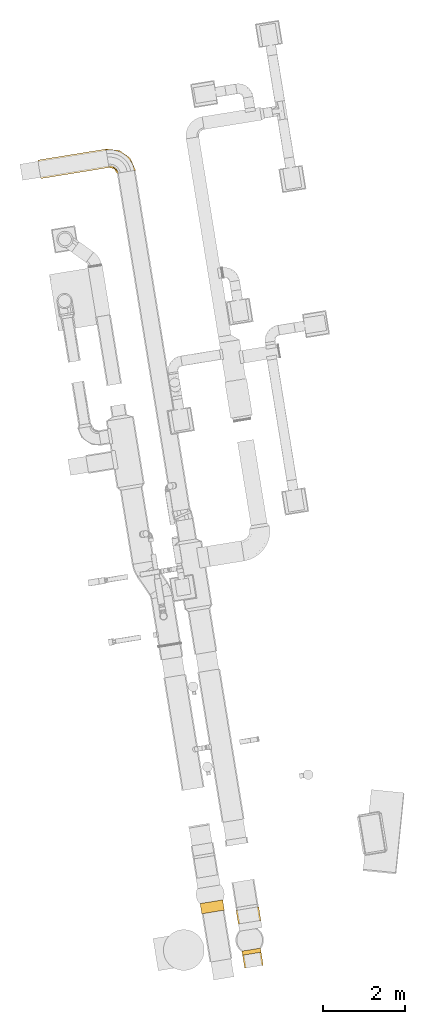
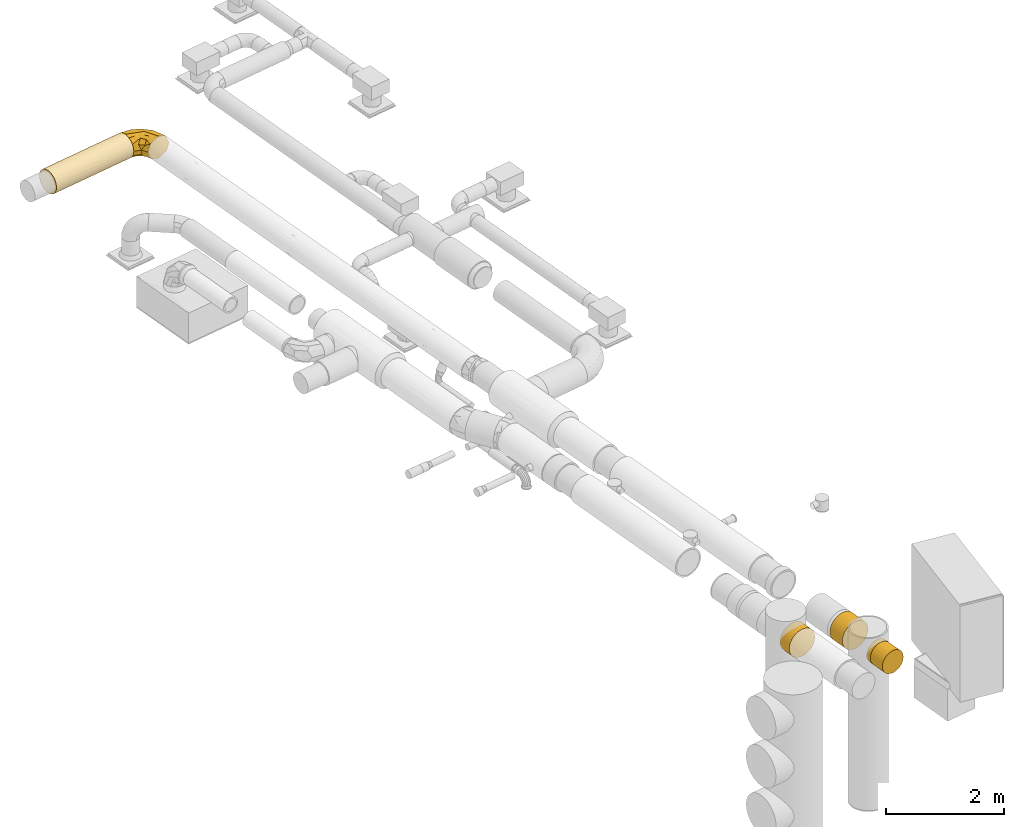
# One storey, part 7 of 39: 6 coverings.
"""IFC2X3 building model written with IfcOpenShell, lengths in millimetres."""

from ifc_helpers import new_model, entity, si_unit, converted_unit, derived_unit, direction, frame, origin, origin_with_axes, place, context, subcontext, project, spatial, faceted_brep, type_object, element, save


model = new_model("IFC2X3")

# Units and contexts
plan_context = context("Plan", 3, precision=1e-05, world=origin_with_axes())
model_context = context("Model", 3, precision=0.01, world=origin(), true_north=direction((6.12323399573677e-17, 1.0)))
body_context = subcontext(model_context, "Body", "Model", "MODEL_VIEW")
ifc_project = project(units=[converted_unit("PLANEANGLEUNIT", "DEGREE", entity("IfcPositiveLengthMeasure", 0.0174532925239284), si_unit("PLANEANGLEUNIT", "RADIAN"), dimensions=[0, 0, 0, 0, 0, 0, 0]), si_unit("AREAUNIT", "SQUARE_METRE"), si_unit("LENGTHUNIT", "METRE", prefix="MILLI"), si_unit("MASSUNIT", "GRAM", prefix="KILO"), si_unit("POWERUNIT", "WATT"), si_unit("PRESSUREUNIT", "PASCAL", prefix="KILO"), si_unit("FORCEUNIT", "NEWTON", prefix="KILO"), si_unit("ELECTRICVOLTAGEUNIT", "VOLT"), si_unit("ELECTRICCURRENTUNIT", "AMPERE"), si_unit("THERMODYNAMICTEMPERATUREUNIT", "DEGREE_CELSIUS"), si_unit("TIMEUNIT", "SECOND"), si_unit("VOLUMEUNIT", "CUBIC_METRE"), derived_unit("LINEARVELOCITYUNIT", [(si_unit("LENGTHUNIT", "METRE"), 1), (si_unit("TIMEUNIT", "SECOND"), -1)]), derived_unit("VOLUMETRICFLOWRATEUNIT", [(si_unit("VOLUMEUNIT", "CUBIC_METRE"), 1), (si_unit("TIMEUNIT", "SECOND"), -1)]), derived_unit("THERMALTRANSMITTANCEUNIT", [(si_unit("POWERUNIT", "WATT"), 1), (si_unit("THERMODYNAMICTEMPERATUREUNIT", "KELVIN"), -1), (si_unit("AREAUNIT", "SQUARE_METRE"), -1)]), derived_unit("SOUNDPRESSUREUNIT", [(si_unit("PRESSUREUNIT", "PASCAL"), 1)])], contexts=[model_context, plan_context])

# Site, building, storey
site_placement = place(None, frame((-0.00071070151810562, 0.00438415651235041, 0.0), z_axis=(0.0, 0.0, 1.0), x_axis=(-0.160236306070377, 0.987078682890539, 0.0)))
site = spatial("IfcSite", under=ifc_project, at=site_placement, Name="Default", CompositionType="ELEMENT")
building_placement = place(site_placement, origin_with_axes())
building = spatial("IfcBuilding", under=site, at=building_placement, CompositionType="ELEMENT")
storey_placement = place(building_placement, frame((0.0, 0.0, 58999.9999999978), z_axis=(0.0, 0.0, 1.0), x_axis=(1.0, 0.0, 0.0)))
storey = spatial("IfcBuildingStorey", under=building, at=storey_placement, Name="Nivå F", CompositionType="ELEMENT", Elevation=58999.9999999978)

# Coverings
covering_type_1 = type_object("IfcCoveringType", Name="Duct Insulation:MuT030", PredefinedType="INSULATION")
covering_1_placement = place(storey_placement, frame((782925.626843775, -503533.958173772, 2898.40472776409), z_axis=(0.0, 0.0, 1.0), x_axis=(1.0, 0.0, 0.0)))
element("IfcCovering", 1, at=covering_1_placement, inside=storey, type_object=covering_type_1, Name="Duct Insulation:MuT030", ObjectType="Duct Insulation:MuT030", PredefinedType="INSULATION", context=body_context, shape_type="Brep", body=[
    faceted_brep([(401.595272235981, 631.595272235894, 461.595272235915), (523.966668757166, 631.595272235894, 426.339312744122), (608.819968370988, 631.595272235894, 331.384677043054), (631.595272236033, 631.595272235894, 231.595272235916), (596.33931274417, 631.595272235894, 109.223875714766), (501.384677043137, 631.595272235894, 24.3705761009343), (401.595272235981, 631.595272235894, 1.5952722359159), (316.748709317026, 631.595272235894, 26.0400940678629), (279.223875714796, 631.595272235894, 36.8512317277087), (236.797225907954, 631.595272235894, 84.3285495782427), (194.370576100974, 631.595272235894, 131.805867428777), (171.595272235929, 631.595272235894, 231.595272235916), (206.851231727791, 631.595272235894, 353.966668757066), (301.805867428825, 631.595272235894, 438.819968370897), (1.59527223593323, 231.595272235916, 461.595272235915), (1.59527223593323, 272.164015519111, 442.058395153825), (1.59527223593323, 312.732758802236, 422.521518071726), (1.59527223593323, 362.074636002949, 398.759722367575), (1.59527223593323, 411.416513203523, 374.997926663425), (1.59527223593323, 461.595272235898, 231.595272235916), (1.59527223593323, 418.296599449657, 141.684651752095), (1.59527223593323, 374.997926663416, 51.774031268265), (1.59527223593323, 315.593367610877, 30.9874770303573), (1.59527223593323, 231.595272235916, 1.5952722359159), (1.59527223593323, 141.684651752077, 44.8939450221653), (1.59527223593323, 51.774031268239, 88.1926178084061), (1.59527223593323, 1.59527223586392, 231.595272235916), (1.59527223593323, 40.6958301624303, 312.788417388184), (1.59527223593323, 88.1926178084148, 411.416513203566), (316.595272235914, 85.9992678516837, 231.595272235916), (383.306690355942, 148.432506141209, 311.290352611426), (217.493303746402, 83.155639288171, 362.078338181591), (216.733217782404, 165.647230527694, 431.799821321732), (391.018554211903, 330.362904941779, 442.248264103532), (406.318936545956, 226.871582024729, 383.878103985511), (547.191276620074, 316.595272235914, 231.595272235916), (531.330544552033, 328.846791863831, 325.079823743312), (258.710316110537, 325.177494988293, 461.595272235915), (518.68615377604, 417.804926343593, 397.262915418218), (130.152794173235, 278.386383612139, 461.595272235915), (54.536985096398, 250.864479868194, 461.595272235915), (354.521714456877, 530.645701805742, 461.595272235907), (307.448156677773, 429.696131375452, 461.595272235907), (114.815478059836, 406.653497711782, 407.507808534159), (203.545062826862, 464.728216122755, 415.572842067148), (83.4917692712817, 459.084378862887, 327.531326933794), (283.867814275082, 520.319757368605, 440.332274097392), (197.188976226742, 383.340831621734, 445.726729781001), (167.546976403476, 534.249460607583, 330.592898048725), (121.803425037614, 511.387119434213, 231.595272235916), (114.461323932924, 333.844023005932, 446.64302895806), (131.107641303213, 486.81292175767, 128.787709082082), (200.557400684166, 467.669603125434, 50.8265051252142), (99.2509756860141, 412.731412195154, 66.6958269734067), (183.094507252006, 297.65559132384, 1.59527223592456), (107.478698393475, 270.133687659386, 1.5952722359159), (88.3633765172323, 321.954761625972, 15.381456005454), (165.239041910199, 359.757846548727, 16.9803665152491), (354.521714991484, 530.645702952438, 1.5952722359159), (330.984936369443, 480.170918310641, 1.59527223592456), (307.448157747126, 429.696133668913, 1.5952722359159), (258.710316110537, 325.177494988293, 1.5952722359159), (264.620947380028, 532.327629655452, 34.6917996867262), (269.694657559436, 215.593604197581, 22.0903088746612), (206.12729296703, 109.232777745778, 67.3205134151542), (404.119593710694, 229.07092488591, 75.8627491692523), (511.348934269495, 419.296076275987, 59.152341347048), (545.309735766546, 361.801204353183, 131.281526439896), (197.913181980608, 49.9055712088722, 147.119296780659), (397.192570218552, 159.52334705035, 152.339541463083), (422.363282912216, 403.397677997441, 15.4659808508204)], [[[0, 1, 2, 3, 4, 5, 6, 7, 8, 9, 10, 11, 12, 13]], [[14, 15, 16, 17, 18, 19, 20, 21, 22, 23, 24, 25, 26, 27, 28]], [[29, 30, 31]], [[27, 31, 28]], [[32, 14, 28]], [[28, 31, 32]], [[1, 0, 33]], [[32, 31, 34]], [[30, 34, 31]], [[27, 26, 29]], [[35, 3, 2]], [[34, 30, 36]], [[37, 32, 33]], [[36, 38, 34]], [[33, 34, 38]], [[32, 37, 39, 40, 14]], [[33, 0, 41, 42, 37]], [[29, 31, 27]], [[29, 35, 30]], [[33, 32, 34]], [[36, 30, 35]], [[35, 2, 36]], [[38, 2, 1]], [[2, 38, 36]], [[33, 38, 1]], [[39, 16, 15, 14, 40]], [[43, 44, 45]], [[46, 41, 13]], [[19, 18, 45]], [[42, 44, 47]], [[43, 45, 18]], [[45, 48, 49]], [[46, 44, 42]], [[48, 11, 49]], [[45, 49, 19]], [[46, 12, 44]], [[44, 48, 45]], [[11, 48, 12]], [[13, 41, 0]], [[50, 39, 37]], [[48, 44, 12]], [[47, 44, 43]], [[50, 16, 39]], [[37, 47, 50]], [[43, 18, 17]], [[47, 43, 50]], [[42, 47, 37]], [[43, 17, 50]], [[16, 50, 17]], [[41, 46, 42]], [[12, 46, 13]], [[51, 52, 53]], [[20, 19, 51]], [[54, 55, 56]], [[57, 56, 53]], [[10, 52, 51]], [[51, 49, 11]], [[11, 10, 51]], [[20, 51, 53]], [[8, 7, 6, 58, 59]], [[53, 21, 20]], [[52, 60, 61]], [[62, 60, 52]], [[57, 61, 54]], [[62, 10, 9, 8]], [[55, 23, 22]], [[49, 51, 19]], [[57, 52, 61]], [[56, 22, 21]], [[52, 57, 53]], [[54, 56, 57]], [[21, 53, 56]], [[55, 22, 56]], [[62, 52, 10]], [[8, 59, 62]], [[60, 62, 59]], [[24, 63, 64]], [[65, 66, 67]], [[25, 68, 26]], [[69, 64, 65]], [[4, 67, 66]], [[70, 63, 61]], [[70, 61, 60, 59, 58, 6]], [[24, 64, 25]], [[29, 68, 69]], [[23, 63, 24]], [[67, 3, 35]], [[69, 67, 35]], [[63, 70, 65]], [[25, 64, 68]], [[64, 63, 65]], [[70, 6, 5]], [[69, 68, 64]], [[63, 23, 55, 54, 61]], [[26, 68, 29]], [[67, 69, 65]], [[35, 29, 69]], [[65, 70, 66]], [[3, 67, 4]], [[70, 5, 66]], [[4, 66, 5]]]),
])
covering_2_placement = place(storey_placement, frame((783095.626843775, -502902.362901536, 2898.40472776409), z_axis=(0.0, 0.0, 1.0), x_axis=(1.0, 0.0, 0.0)))
element("IfcCovering", 2, at=covering_2_placement, inside=storey, type_object=covering_type_1, Name="Duct Insulation:MuT030", ObjectType="Duct Insulation:MuT030", PredefinedType="INSULATION", context=body_context, shape_type="Brep", body=[
    faceted_brep([(131.802012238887, 0.0, 24.3724326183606), (180.415457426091, 0.0, 7.36185243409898), (231.595272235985, 0.0, 1.5952722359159), (282.775087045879, 0.0, 7.36185243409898), (331.388532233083, 0.0, 24.3724326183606), (374.997926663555, 0.0, 51.774031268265), (411.416513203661, 0.0, 88.1926178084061), (438.818111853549, 0.0, 131.802012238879), (455.828692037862, 0.0, 180.415457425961), (461.595272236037, 0.0, 231.595272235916), (455.828692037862, 0.0, 282.77508704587), (438.818111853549, 0.0, 331.388532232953), (411.416513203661, 0.0, 374.997926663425), (374.997926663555, 0.0, 411.416513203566), (331.388532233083, 0.0, 438.818111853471), (282.775087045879, 0.0, 455.828692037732), (231.595272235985, 0.0, 461.595272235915), (180.415457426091, 0.0, 455.828692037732), (131.802012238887, 0.0, 438.818111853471), (88.1926178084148, 0.0, 411.416513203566), (51.7740312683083, 0.0, 374.997926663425), (24.3724326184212, 0.0, 331.388532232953), (7.36185243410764, 0.0, 282.77508704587), (1.59527223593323, 0.0, 231.595272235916), (7.36185243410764, 0.0, 180.415457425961), (24.3724326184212, 0.0, 131.802012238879), (51.7740312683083, 0.0, 88.1926178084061), (88.1926178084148, 0.0, 51.774031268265), (51.7740312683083, 1691.65328400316, 88.1926178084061), (24.3724326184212, 1691.65328400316, 131.802012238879), (7.36185243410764, 1691.65328400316, 180.415457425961), (1.59527223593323, 1691.65328400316, 231.595272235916), (7.36185243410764, 1691.65328400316, 282.77508704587), (24.3724326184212, 1691.65328400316, 331.388532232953), (51.7740312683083, 1691.65328400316, 374.997926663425), (88.1926178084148, 1691.65328400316, 411.416513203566), (131.802012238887, 1691.65328400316, 438.818111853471), (180.415457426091, 1691.65328400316, 455.828692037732), (231.595272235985, 1691.65328400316, 461.595272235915), (282.775087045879, 1691.65328400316, 455.828692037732), (331.388532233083, 1691.65328400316, 438.818111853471), (374.997926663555, 1691.65328400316, 411.416513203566), (411.416513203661, 1691.65328400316, 374.997926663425), (438.818111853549, 1691.65328400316, 331.388532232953), (455.828692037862, 1691.65328400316, 282.77508704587), (461.595272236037, 1691.65328400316, 231.595272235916), (455.828692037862, 1691.65328400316, 180.415457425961), (438.818111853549, 1691.65328400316, 131.802012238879), (411.416513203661, 1691.65328400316, 88.1926178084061), (374.997926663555, 1691.65328400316, 51.774031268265), (331.388532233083, 1691.65328400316, 24.3724326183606), (282.775087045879, 1691.65328400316, 7.36185243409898), (231.595272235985, 1691.65328400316, 1.5952722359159), (180.415457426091, 1691.65328400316, 7.36185243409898), (131.802012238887, 1691.65328400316, 24.3724326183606), (88.1926178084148, 1691.65328400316, 51.774031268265), (9.68064784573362, 845.826645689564, 171.14777864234), (1.59527223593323, 632.566853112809, 231.595272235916), (36.8487068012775, 845.826642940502, 109.227894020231), (109.227894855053, 845.826642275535, 36.8487062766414), (68.9607129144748, 639.681410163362, 68.9607122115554), (171.147779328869, 845.826642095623, 9.68064765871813), (231.595272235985, 632.566879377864, 1.5952722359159), (231.595272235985, 1059.0864051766, 1.5952722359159), (292.042765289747, 845.826641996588, 9.68064769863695), (353.962649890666, 845.826642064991, 36.848706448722), (394.229831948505, 639.681408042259, 68.9607126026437), (426.341838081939, 845.826642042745, 109.227894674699), (453.509896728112, 845.82664201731, 171.147779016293), (461.595272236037, 632.566882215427, 231.595272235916), (461.595272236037, 1059.08640193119, 231.595272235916), (453.509896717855, 845.826641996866, 292.042765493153), (426.341838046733, 845.826642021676, 353.962649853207), (394.229831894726, 639.681407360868, 394.229831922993), (353.962649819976, 845.826642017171, 426.341838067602), (292.042765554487, 845.826642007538, 453.509896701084), (231.595272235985, 632.566883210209, 461.595272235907), (231.595272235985, 1059.08640085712, 461.595272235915), (171.147778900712, 845.826641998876, 453.509896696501), (109.227894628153, 845.826642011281, 426.341838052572), (68.9607125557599, 639.681407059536, 394.22983190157), (36.8487064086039, 845.826642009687, 353.962649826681), (9.6806477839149, 845.826642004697, 292.042765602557)], [[[0, 1, 2, 3, 4, 5, 6, 7, 8, 9, 10, 11, 12, 13, 14, 15, 16, 17, 18, 19, 20, 21, 22, 23, 24, 25, 26, 27]], [[28, 29, 30, 31, 32, 33, 34, 35, 36, 37, 38, 39, 40, 41, 42, 43, 44, 45, 46, 47, 48, 49, 50, 51, 52, 53, 54, 55]], [[31, 56, 57]], [[23, 57, 24]], [[56, 24, 57]], [[58, 29, 28]], [[58, 56, 29]], [[30, 56, 31]], [[27, 59, 0]], [[28, 55, 60]], [[56, 25, 24]], [[54, 53, 61]], [[26, 58, 60]], [[25, 58, 26]], [[59, 55, 54]], [[61, 53, 52]], [[26, 60, 27]], [[60, 58, 28]], [[62, 2, 1]], [[61, 52, 63, 62]], [[59, 27, 60]], [[0, 61, 1]], [[61, 0, 59]], [[29, 56, 30]], [[25, 56, 58]], [[54, 61, 59]], [[55, 59, 60]], [[62, 1, 61]], [[64, 63, 51]], [[64, 3, 2]], [[65, 50, 49]], [[65, 64, 50]], [[51, 63, 52]], [[4, 65, 5]], [[64, 2, 62, 63]], [[64, 4, 3]], [[49, 48, 66]], [[5, 65, 66]], [[67, 48, 47]], [[5, 66, 6]], [[68, 46, 45]], [[7, 68, 8]], [[47, 68, 67]], [[69, 9, 8]], [[6, 67, 7]], [[67, 6, 66]], [[68, 45, 70, 69]], [[68, 7, 67]], [[50, 64, 51]], [[69, 8, 68]], [[4, 64, 65]], [[48, 67, 66]], [[66, 65, 49]], [[47, 46, 68]], [[71, 70, 44]], [[71, 10, 9]], [[72, 43, 42]], [[72, 71, 43]], [[44, 70, 45]], [[11, 72, 12]], [[71, 9, 69, 70]], [[71, 11, 10]], [[42, 41, 73]], [[12, 72, 73]], [[74, 41, 40]], [[12, 73, 13]], [[75, 39, 38]], [[14, 75, 15]], [[40, 75, 74]], [[76, 16, 15]], [[13, 74, 14]], [[74, 13, 73]], [[75, 38, 77, 76]], [[75, 14, 74]], [[43, 71, 44]], [[76, 15, 75]], [[11, 71, 72]], [[41, 74, 73]], [[73, 72, 42]], [[40, 39, 75]], [[78, 77, 37]], [[78, 17, 16]], [[79, 36, 35]], [[79, 78, 36]], [[37, 77, 38]], [[18, 79, 19]], [[78, 16, 76, 77]], [[78, 18, 17]], [[35, 34, 80]], [[19, 79, 80]], [[81, 34, 33]], [[19, 80, 20]], [[82, 32, 31]], [[21, 82, 22]], [[33, 82, 81]], [[57, 23, 22]], [[20, 81, 21]], [[81, 20, 80]], [[31, 57, 82]], [[82, 21, 81]], [[36, 78, 37]], [[57, 22, 82]], [[18, 78, 79]], [[34, 81, 80]], [[80, 79, 35]], [[33, 32, 82]]]),
])
covering_type_2 = type_object("IfcCoveringType", Name="Duct Insulation:EI 120-60", PredefinedType="INSULATION")
covering_3_placement = place(storey_placement, frame((764302.98462938, -503621.603887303, 2848.40426923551), z_axis=(0.0, 0.0, 1.0), x_axis=(1.0, 0.0, 0.0)))
element("IfcCovering", 3, at=covering_3_placement, inside=storey, type_object=covering_type_2, Name="Duct Insulation:EI 120-60", ObjectType="Duct Insulation:EI 120-60", PredefinedType="INSULATION", context=body_context, shape_type="Brep", body=[
    faceted_brep([(0.0, 48.7837807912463, 126.035606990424), (0.0, 22.9090031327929, 174.443911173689), (0.0, 6.97539372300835, 226.969982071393), (0.0, 1.59527223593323, 281.595272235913), (0.0, 6.97539372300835, 336.220562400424), (0.0, 22.9090031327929, 388.746633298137), (0.0, 48.7837807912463, 437.154937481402), (0.0, 83.6053735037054, 479.585170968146), (0.0, 126.035606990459, 514.406763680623), (0.0, 174.443911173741, 540.281541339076), (0.0, 226.969982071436, 556.215150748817), (0.0, 281.595272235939, 561.59527223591), (0.0, 336.220562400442, 556.215150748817), (0.0, 388.746633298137, 540.281541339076), (0.0, 437.154937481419, 514.406763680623), (0.0, 479.585170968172, 479.585170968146), (0.0, 514.406763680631, 437.154937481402), (0.0, 540.281541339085, 388.746633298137), (0.0, 556.215150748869, 336.220562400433), (0.0, 561.595272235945, 281.595272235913), (0.0, 556.215150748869, 226.969982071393), (0.0, 540.281541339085, 174.443911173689), (0.0, 514.406763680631, 126.035606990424), (0.0, 479.585170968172, 83.6053735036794), (0.0, 437.154937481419, 48.783780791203), (0.0, 388.746633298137, 22.9090031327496), (0.0, 336.220562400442, 6.97539372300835), (0.0, 281.595272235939, 1.5952722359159), (0.0, 226.969982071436, 6.97539372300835), (0.0, 174.443911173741, 22.9090031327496), (0.0, 126.035606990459, 48.783780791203), (0.0, 83.6053735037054, 83.6053735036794), (337.105793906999, 22.9090031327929, 388.746633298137), (337.105793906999, 6.97539372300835, 336.220562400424), (337.105793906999, 1.59527223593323, 281.595272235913), (337.105793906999, 6.97539372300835, 226.969982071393), (337.105793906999, 22.9090031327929, 174.443911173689), (337.105793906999, 48.7837807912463, 126.035606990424), (337.105793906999, 83.6053735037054, 83.6053735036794), (337.105793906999, 126.035606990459, 48.783780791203), (337.105793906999, 174.443911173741, 22.9090031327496), (337.105793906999, 226.969982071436, 6.97539372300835), (337.105793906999, 281.595272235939, 1.5952722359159), (337.105793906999, 336.220562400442, 6.97539372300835), (337.105793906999, 388.746633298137, 22.9090031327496), (337.105793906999, 437.154937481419, 48.783780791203), (337.105793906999, 479.585170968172, 83.6053735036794), (337.105793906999, 514.406763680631, 126.035606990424), (337.105793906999, 540.281541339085, 174.443911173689), (337.105793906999, 556.215150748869, 226.969982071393), (337.105793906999, 561.595272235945, 281.595272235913), (337.105793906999, 556.215150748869, 336.220562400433), (337.105793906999, 540.281541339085, 388.746633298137), (337.105793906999, 514.406763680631, 437.154937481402), (337.105793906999, 479.585170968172, 479.585170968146), (337.105793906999, 437.154937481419, 514.406763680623), (337.105793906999, 388.746633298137, 540.281541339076), (337.105793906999, 336.220562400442, 556.215150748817), (337.105793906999, 281.595272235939, 561.59527223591), (337.105793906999, 226.969982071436, 556.215150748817), (337.105793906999, 174.443911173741, 540.281541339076), (337.105793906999, 126.035606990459, 514.406763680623), (337.105793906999, 83.6053735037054, 479.585170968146), (337.105793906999, 48.7837807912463, 437.154937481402)], [[[0, 1, 2, 3, 4, 5, 6, 7, 8, 9, 10, 11, 12, 13, 14, 15, 16, 17, 18, 19, 20, 21, 22, 23, 24, 25, 26, 27, 28, 29, 30, 31]], [[32, 33, 34, 35, 36, 37, 38, 39, 40, 41, 42, 43, 44, 45, 46, 47, 48, 49, 50, 51, 52, 53, 54, 55, 56, 57, 58, 59, 60, 61, 62, 63]], [[50, 49, 20, 19]], [[48, 47, 22, 21]], [[49, 48, 21, 20]], [[23, 22, 47, 46]], [[25, 24, 45, 44]], [[26, 25, 44, 43]], [[27, 26, 43, 42]], [[46, 45, 24, 23]], [[28, 27, 42, 41]], [[29, 28, 41, 40]], [[30, 29, 40, 39]], [[39, 38, 31, 30]], [[1, 0, 37, 36]], [[2, 1, 36, 35]], [[3, 2, 35, 34]], [[38, 37, 0, 31]], [[4, 3, 34, 33]], [[5, 4, 33, 32]], [[6, 5, 32, 63]], [[63, 62, 7, 6]], [[9, 8, 61, 60]], [[10, 9, 60, 59]], [[11, 10, 59, 58]], [[62, 61, 8, 7]], [[12, 11, 58, 57]], [[13, 12, 57, 56]], [[14, 13, 56, 55]], [[55, 54, 15, 14]], [[17, 16, 53, 52]], [[18, 17, 52, 51]], [[19, 18, 51, 50]], [[54, 53, 16, 15]]]),
])
covering_4_placement = place(storey_placement, frame((763209.369644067, -503501.603887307, 3431.59525240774), z_axis=(0.0, 0.0, 1.0), x_axis=(1.0, 0.0, 0.0)))
element("IfcCovering", 4, at=covering_4_placement, inside=storey, type_object=covering_type_2, Name="Duct Insulation:EI 120-60", ObjectType="Duct Insulation:EI 120-60", PredefinedType="INSULATION", context=body_context, shape_type="Brep", body=[
    faceted_brep([(0.0, 24.3724326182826, -331.388532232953), (0.0, 7.36185243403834, -282.77508704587), (0.0, 1.59527223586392, -231.595272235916), (0.0, 7.36185243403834, -180.415457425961), (0.0, 24.3724326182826, -131.802012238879), (0.0, 51.7740312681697, -88.1926178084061), (0.0, 88.1926178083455, -51.774031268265), (0.0, 131.802012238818, -24.3724326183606), (0.0, 180.415457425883, -7.36185243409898), (0.0, 231.595272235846, -1.5952722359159), (0.0, 282.775087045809, -7.36185243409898), (0.0, 331.388532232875, -24.3724326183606), (0.0, 374.997926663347, -51.774031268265), (0.0, 411.416513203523, -88.1926178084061), (0.0, 438.81811185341, -131.802012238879), (0.0, 455.828692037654, -180.415457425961), (0.0, 461.595272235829, -231.595272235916), (0.0, 455.828692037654, -282.77508704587), (0.0, 438.81811185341, -331.388532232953), (0.0, 411.416513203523, -374.997926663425), (0.0, 374.997926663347, -411.416513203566), (0.0, 331.388532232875, -438.818111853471), (0.0, 282.775087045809, -455.828692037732), (0.0, 231.595272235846, -461.595272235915), (0.0, 180.415457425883, -455.828692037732), (0.0, 131.802012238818, -438.818111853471), (0.0, 88.1926178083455, -411.416513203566), (0.0, 51.7740312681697, -374.997926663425), (321.491231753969, 88.1926178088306, -411.416513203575), (321.491231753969, 131.802012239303, -438.818111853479), (321.491231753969, 180.415457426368, -455.828692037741), (321.49123175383, 231.595272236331, -461.595272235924), (321.491231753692, 282.775087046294, -455.828692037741), (321.491231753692, 331.38853223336, -438.818111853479), (321.491231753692, 374.997926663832, -411.416513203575), (321.491231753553, 411.416513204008, -374.997926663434), (321.491231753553, 438.818111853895, -331.388532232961), (321.491231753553, 455.828692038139, -282.775087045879), (321.491231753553, 461.595272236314, -231.595272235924), (321.491231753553, 455.828692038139, -180.41545742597), (321.491231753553, 438.818111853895, -131.802012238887), (321.491231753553, 411.416513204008, -88.1926178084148), (321.491231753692, 374.997926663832, -51.7740312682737), (321.491231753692, 331.38853223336, -24.3724326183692), (321.491231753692, 282.775087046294, -7.36185243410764), (321.49123175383, 231.595272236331, -1.59527223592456), (321.491231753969, 180.415457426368, -7.36185243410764), (321.491231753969, 131.802012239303, -24.3724326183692), (321.491231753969, 88.1926178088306, -51.7740312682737), (321.491231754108, 51.7740312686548, -88.1926178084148), (321.491231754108, 24.3724326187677, -131.802012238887), (321.491231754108, 7.36185243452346, -180.41545742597), (321.491231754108, 1.59527223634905, -231.595272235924), (321.491231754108, 7.36185243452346, -282.775087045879), (321.491231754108, 24.3724326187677, -331.388532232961), (321.491231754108, 51.7740312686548, -374.997926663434)], [[[0, 1, 2, 3, 4, 5, 6, 7, 8, 9, 10, 11, 12, 13, 14, 15, 16, 17, 18, 19, 20, 21, 22, 23, 24, 25, 26, 27]], [[28, 29, 30, 31, 32, 33, 34, 35, 36, 37, 38, 39, 40, 41, 42, 43, 44, 45, 46, 47, 48, 49, 50, 51, 52, 53, 54, 55]], [[38, 37, 17, 16]], [[37, 36, 18, 17]], [[19, 18, 36, 35]], [[35, 34, 20, 19]], [[21, 20, 34, 33]], [[22, 21, 33, 32]], [[23, 22, 32, 31]], [[24, 23, 31, 30]], [[25, 24, 30, 29]], [[26, 25, 29, 28]], [[28, 55, 27, 26]], [[0, 27, 55, 54]], [[1, 0, 54, 53]], [[2, 1, 53, 52]], [[3, 2, 52, 51]], [[4, 3, 51, 50]], [[5, 4, 50, 49]], [[49, 48, 6, 5]], [[7, 6, 48, 47]], [[8, 7, 47, 46]], [[9, 8, 46, 45]], [[10, 9, 45, 44]], [[11, 10, 44, 43]], [[12, 11, 43, 42]], [[42, 41, 13, 12]], [[14, 13, 41, 40]], [[15, 14, 40, 39]], [[16, 15, 39, 38]]]),
])
covering_5_placement = place(storey_placement, frame((764692.590423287, -502778.429977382, 2848.40472776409), z_axis=(0.0, 0.0, 1.0), x_axis=(1.0, 0.0, 0.0)))
element("IfcCovering", 5, at=covering_5_placement, inside=storey, type_object=covering_type_2, Name="Duct Insulation:EI 120-60", ObjectType="Duct Insulation:EI 120-60", PredefinedType="INSULATION", context=body_context, shape_type="Brep", body=[
    faceted_brep([(254.458321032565, 22.9090031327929, 174.443911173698), (254.458321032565, 48.7837807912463, 126.035606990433), (254.458321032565, 83.6053735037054, 83.6053735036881), (254.458321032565, 126.035606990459, 48.7837807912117), (254.458321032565, 174.443911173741, 22.9090031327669), (254.458321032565, 226.969982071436, 6.97539372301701), (254.458321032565, 281.595272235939, 1.59527223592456), (254.458321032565, 336.220562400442, 6.97539372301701), (254.458321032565, 388.746633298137, 22.9090031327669), (254.458321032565, 437.154937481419, 48.7837807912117), (254.458321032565, 479.585170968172, 83.6053735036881), (254.458321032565, 514.406763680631, 126.035606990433), (254.458321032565, 540.281541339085, 174.443911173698), (254.458321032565, 556.215150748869, 226.96998207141), (254.458321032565, 561.595272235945, 281.595272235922), (254.458321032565, 556.215150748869, 336.220562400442), (254.458321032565, 540.281541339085, 388.746633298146), (254.458321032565, 514.406763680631, 437.15493748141), (254.458321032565, 479.585170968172, 479.585170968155), (254.458321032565, 437.154937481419, 514.40676368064), (254.458321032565, 388.746633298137, 540.281541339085), (254.458321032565, 336.220562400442, 556.215150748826), (254.458321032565, 281.595272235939, 561.595272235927), (254.458321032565, 226.969982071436, 556.215150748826), (254.458321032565, 174.443911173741, 540.281541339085), (254.458321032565, 126.035606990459, 514.40676368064), (254.458321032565, 83.6053735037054, 479.585170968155), (254.458321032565, 48.7837807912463, 437.15493748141), (254.458321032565, 22.9090031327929, 388.746633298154), (254.458321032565, 6.97539372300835, 336.220562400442), (254.458321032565, 1.59527223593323, 281.595272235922), (254.458321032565, 6.97539372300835, 226.96998207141), (0.0, 540.281541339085, 174.443911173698), (0.0, 514.406763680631, 126.035606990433), (0.0, 479.585170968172, 83.6053735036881), (0.0, 437.154937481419, 48.7837807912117), (0.0, 388.746633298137, 22.9090031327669), (0.0, 336.220562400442, 6.97539372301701), (0.0, 281.595272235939, 1.59527223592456), (0.0, 226.969982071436, 6.97539372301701), (0.0, 174.443911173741, 22.9090031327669), (0.0, 126.035606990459, 48.7837807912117), (0.0, 83.6053735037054, 83.6053735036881), (0.0, 48.7837807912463, 126.035606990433), (0.0, 22.9090031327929, 174.443911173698), (0.0, 6.97539372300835, 226.96998207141), (0.0, 1.59527223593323, 281.595272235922), (0.0, 6.97539372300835, 336.220562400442), (0.0, 22.9090031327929, 388.746633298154), (0.0, 48.7837807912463, 437.15493748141), (0.0, 83.6053735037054, 479.585170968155), (0.0, 126.035606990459, 514.40676368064), (0.0, 174.443911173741, 540.281541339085), (0.0, 226.969982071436, 556.215150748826), (0.0, 281.595272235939, 561.595272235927), (0.0, 336.220562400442, 556.215150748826), (0.0, 388.746633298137, 540.281541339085), (0.0, 437.154937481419, 514.40676368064), (0.0, 479.585170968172, 479.585170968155), (0.0, 514.406763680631, 437.15493748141), (0.0, 540.281541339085, 388.746633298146), (0.0, 556.215150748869, 336.220562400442), (0.0, 561.595272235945, 281.595272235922), (0.0, 556.215150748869, 226.96998207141)], [[[0, 1, 2, 3, 4, 5, 6, 7, 8, 9, 10, 11, 12, 13, 14, 15, 16, 17, 18, 19, 20, 21, 22, 23, 24, 25, 26, 27, 28, 29, 30, 31]], [[32, 33, 34, 35, 36, 37, 38, 39, 40, 41, 42, 43, 44, 45, 46, 47, 48, 49, 50, 51, 52, 53, 54, 55, 56, 57, 58, 59, 60, 61, 62, 63]], [[38, 37, 7, 6]], [[35, 34, 10, 9]], [[35, 9, 8, 36]], [[36, 8, 7, 37]], [[11, 33, 32, 12]], [[12, 32, 63, 13]], [[13, 63, 62, 14]], [[10, 34, 33, 11]], [[15, 61, 60, 16]], [[16, 60, 59, 17]], [[17, 59, 58, 18]], [[62, 61, 15, 14]], [[19, 57, 56, 20]], [[20, 56, 55, 21]], [[21, 55, 54, 22]], [[18, 58, 57, 19]], [[23, 53, 52, 24]], [[24, 52, 51, 25]], [[25, 51, 50, 26]], [[54, 53, 23, 22]], [[27, 49, 48, 28]], [[28, 48, 47, 29]], [[29, 47, 46, 30]], [[26, 50, 49, 27]], [[31, 45, 44, 0]], [[0, 44, 43, 1]], [[1, 43, 42, 2]], [[46, 45, 31, 30]], [[3, 41, 40, 4]], [[4, 40, 39, 5]], [[5, 39, 38, 6]], [[2, 42, 41, 3]]]),
])
covering_6_placement = place(storey_placement, frame((763530.86087582, -503501.603887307, 2968.40470793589), z_axis=(0.0, 0.0, 1.0), x_axis=(1.0, 0.0, 0.0)))
element("IfcCovering", 6, at=covering_6_placement, inside=storey, type_object=covering_type_2, Name="Duct Insulation:EI 120-60", ObjectType="Duct Insulation:EI 120-60", PredefinedType="INSULATION", context=body_context, shape_type="Brep", body=[
    faceted_brep([(102.734129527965, 24.3724326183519, 131.802012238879), (102.734129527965, 51.774031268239, 88.1926178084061), (102.734129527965, 88.1926178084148, 51.774031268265), (102.734129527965, 131.802012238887, 24.3724326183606), (102.734129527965, 180.415457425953, 7.36185243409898), (102.734129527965, 231.595272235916, 1.5952722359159), (102.734129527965, 282.775087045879, 7.36185243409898), (102.734129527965, 331.388532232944, 24.3724326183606), (102.734129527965, 374.997926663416, 51.774031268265), (102.734129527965, 411.416513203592, 88.1926178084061), (102.734129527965, 438.818111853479, 131.802012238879), (102.734129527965, 455.828692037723, 180.415457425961), (102.734129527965, 461.595272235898, 231.595272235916), (102.734129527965, 455.828692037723, 282.77508704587), (102.734129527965, 438.818111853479, 331.388532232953), (102.734129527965, 411.416513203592, 374.997926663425), (102.734129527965, 374.997926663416, 411.416513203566), (102.734129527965, 331.388532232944, 438.818111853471), (102.734129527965, 282.775087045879, 455.828692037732), (102.734129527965, 231.595272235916, 461.595272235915), (102.734129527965, 180.415457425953, 455.828692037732), (102.734129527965, 131.802012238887, 438.818111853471), (102.734129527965, 88.1926178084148, 411.416513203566), (102.734129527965, 51.774031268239, 374.997926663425), (102.734129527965, 24.3724326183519, 331.388532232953), (102.734129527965, 7.36185243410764, 282.77508704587), (102.734129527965, 1.59527223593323, 231.595272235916), (102.734129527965, 7.36185243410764, 180.415457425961), (0.0, 461.595272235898, 231.595272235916), (0.0, 455.828692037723, 180.415457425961), (0.0, 438.818111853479, 131.802012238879), (0.0, 411.416513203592, 88.1926178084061), (0.0, 374.997926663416, 51.774031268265), (0.0, 331.388532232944, 24.3724326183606), (0.0, 282.775087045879, 7.36185243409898), (0.0, 231.595272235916, 1.5952722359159), (0.0, 180.415457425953, 7.36185243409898), (0.0, 131.802012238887, 24.3724326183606), (0.0, 88.1926178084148, 51.774031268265), (0.0, 51.774031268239, 88.1926178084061), (0.0, 24.3724326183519, 131.802012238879), (0.0, 7.36185243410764, 180.415457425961), (0.0, 1.59527223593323, 231.595272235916), (0.0, 7.36185243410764, 282.77508704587), (0.0, 24.3724326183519, 331.388532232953), (0.0, 51.774031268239, 374.997926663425), (0.0, 88.1926178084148, 411.416513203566), (0.0, 131.802012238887, 438.818111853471), (0.0, 180.415457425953, 455.828692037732), (0.0, 231.595272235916, 461.595272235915), (0.0, 282.775087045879, 455.828692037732), (0.0, 331.388532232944, 438.818111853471), (0.0, 374.997926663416, 411.416513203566), (0.0, 411.416513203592, 374.997926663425), (0.0, 438.818111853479, 331.388532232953), (0.0, 455.828692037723, 282.77508704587)], [[[0, 1, 2, 3, 4, 5, 6, 7, 8, 9, 10, 11, 12, 13, 14, 15, 16, 17, 18, 19, 20, 21, 22, 23, 24, 25, 26, 27]], [[28, 29, 30, 31, 32, 33, 34, 35, 36, 37, 38, 39, 40, 41, 42, 43, 44, 45, 46, 47, 48, 49, 50, 51, 52, 53, 54, 55]], [[6, 5, 35, 34]], [[34, 33, 7, 6]], [[32, 8, 7, 33]], [[32, 31, 9, 8]], [[9, 31, 30, 10]], [[10, 30, 29, 11]], [[11, 29, 28, 12]], [[13, 12, 28, 55]], [[54, 53, 15, 14]], [[14, 13, 55, 54]], [[53, 52, 16, 15]], [[16, 52, 51, 17]], [[17, 51, 50, 18]], [[18, 50, 49, 19]], [[49, 48, 20, 19]], [[47, 46, 22, 21]], [[48, 47, 21, 20]], [[46, 45, 23, 22]], [[23, 45, 44, 24]], [[24, 44, 43, 25]], [[25, 43, 42, 26]], [[42, 41, 27, 26]], [[41, 40, 0, 27]], [[0, 40, 39, 1]], [[39, 38, 2, 1]], [[2, 38, 37, 3]], [[3, 37, 36, 4]], [[4, 36, 35, 5]]]),
])

save(model, "model.ifc")
